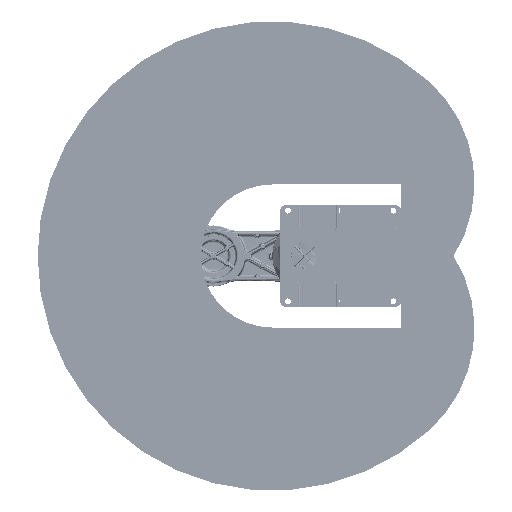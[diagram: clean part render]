
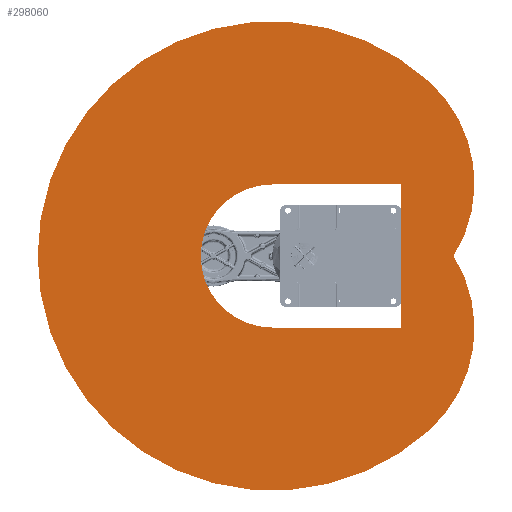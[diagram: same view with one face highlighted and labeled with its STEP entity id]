
A CAD part, front view. The second image highlights one B-rep face of the part: STEP entity #298060.
In plain terms, the highlighted planar face has unit normal (0, -1, 0) as drawn and (0, 0, 1) by its records, which use the part's own axes.
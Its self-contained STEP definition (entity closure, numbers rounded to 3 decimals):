
#8890 = DIRECTION ( 'NONE',  ( 1., 0., 0. ) ) ;
#14755 = CARTESIAN_POINT ( 'NONE',  ( 0., 182.881, 400. ) ) ;
#23980 = CARTESIAN_POINT ( 'NONE',  ( 0., 182.881, 400. ) ) ;
#33756 = DIRECTION ( 'NONE',  ( -1., 0., 0. ) ) ;
#38962 = LINE ( 'NONE', #425142, #393204 ) ;
#45575 = DIRECTION ( 'NONE',  ( 1., 0., 0. ) ) ;
#50015 = VERTEX_POINT ( 'NONE', #14755 ) ;
#74775 = CARTESIAN_POINT ( 'NONE',  ( 0., 0., 400. ) ) ;
#87951 = FACE_OUTER_BOUND ( 'NONE', #407769, .T. ) ;
#92943 = AXIS2_PLACEMENT_3D ( 'NONE', #572017, #147999, #643194 ) ;
#94697 = CARTESIAN_POINT ( 'NONE',  ( 401.478, 445.887, 400. ) ) ;
#95638 = AXIS2_PLACEMENT_3D ( 'NONE', #739273, #457700, #33756 ) ;
#102217 = DIRECTION ( 'NONE',  ( 0., 0., 1. ) ) ;
#119624 = CIRCLE ( 'NONE', #125585, 182.881 ) ;
#124095 = EDGE_CURVE ( 'NONE', #318942, #887282, #119624, .T. ) ;
#125585 = AXIS2_PLACEMENT_3D ( 'NONE', #526218, #102217, #597425 ) ;
#129815 = AXIS2_PLACEMENT_3D ( 'NONE', #270207, #765405, #341419 ) ;
#145891 = DIRECTION ( 'NONE',  ( 1., 0., 0. ) ) ;
#146475 = DIRECTION ( 'NONE',  ( -1., 0., 0. ) ) ;
#147999 = DIRECTION ( 'NONE',  ( 0., 0., -1. ) ) ;
#173259 = EDGE_CURVE ( 'NONE', #305454, #338286, #316576, .T. ) ;
#175822 = VERTEX_POINT ( 'NONE', #451287 ) ;
#193841 = CARTESIAN_POINT ( 'NONE',  ( 463.903, 0., 400. ) ) ;
#214629 = VERTEX_POINT ( 'NONE', #403264 ) ;
#270207 = CARTESIAN_POINT ( 'NONE',  ( 167.283, -185.786, 400. ) ) ;
#290248 = ORIENTED_EDGE ( 'NONE', *, *, #765927, .T. ) ;
#294215 = ORIENTED_EDGE ( 'NONE', *, *, #551951, .T. ) ;
#298060 = ADVANCED_FACE ( 'NONE', ( #87951, #841041 ), #881703, .F. ) ;
#304058 = ORIENTED_EDGE ( 'NONE', *, *, #173259, .F. ) ;
#305454 = VERTEX_POINT ( 'NONE', #94697 ) ;
#316576 = CIRCLE ( 'NONE', #92943, 350. ) ;
#318942 = VERTEX_POINT ( 'NONE', #348799 ) ;
#338286 = VERTEX_POINT ( 'NONE', #193841 ) ;
#341419 = DIRECTION ( 'NONE',  ( 1., 0., 0. ) ) ;
#348799 = CARTESIAN_POINT ( 'NONE',  ( -182.881, 0., 400. ) ) ;
#355270 = CARTESIAN_POINT ( 'NONE',  ( -600., 0., 400. ) ) ;
#373277 = AXIS2_PLACEMENT_3D ( 'NONE', #74775, #569941, #145891 ) ;
#393204 = VECTOR ( 'NONE', #146475, 1000. ) ;
#399683 = LINE ( 'NONE', #23980, #776364 ) ;
#403264 = CARTESIAN_POINT ( 'NONE',  ( 330., -182.881, 400. ) ) ;
#403985 = ORIENTED_EDGE ( 'NONE', *, *, #124095, .F. ) ;
#407769 = EDGE_LOOP ( 'NONE', ( #304058, #454794, #429773, #294215 ) ) ;
#407974 = DIRECTION ( 'NONE',  ( 0., -1., 0. ) ) ;
#414908 = VERTEX_POINT ( 'NONE', #719557 ) ;
#425142 = CARTESIAN_POINT ( 'NONE',  ( 330., -182.881, 400. ) ) ;
#429773 = ORIENTED_EDGE ( 'NONE', *, *, #439694, .T. ) ;
#432738 = DIRECTION ( 'NONE',  ( 0., 0., 1. ) ) ;
#439694 = EDGE_CURVE ( 'NONE', #785388, #414908, #581236, .T. ) ;
#447883 = DIRECTION ( 'NONE',  ( 1., 0., 0. ) ) ;
#449720 = EDGE_CURVE ( 'NONE', #50015, #318942, #575186, .T. ) ;
#451287 = CARTESIAN_POINT ( 'NONE',  ( 330., 182.881, 400. ) ) ;
#454794 = ORIENTED_EDGE ( 'NONE', *, *, #913389, .T. ) ;
#457700 = DIRECTION ( 'NONE',  ( 0., 0., -1. ) ) ;
#469610 = DIRECTION ( 'NONE',  ( 0., 0., 1. ) ) ;
#482575 = AXIS2_PLACEMENT_3D ( 'NONE', #893647, #469610, #45575 ) ;
#521279 = ORIENTED_EDGE ( 'NONE', *, *, #882050, .T. ) ;
#526218 = CARTESIAN_POINT ( 'NONE',  ( 0., 0., 400. ) ) ;
#551951 = EDGE_CURVE ( 'NONE', #414908, #338286, #613245, .T. ) ;
#569941 = DIRECTION ( 'NONE',  ( 0., 0., 1. ) ) ;
#572017 = CARTESIAN_POINT ( 'NONE',  ( 167.283, 185.786, 400. ) ) ;
#575186 = CIRCLE ( 'NONE', #482575, 182.881 ) ;
#581236 = CIRCLE ( 'NONE', #661643, 600. ) ;
#581535 = EDGE_LOOP ( 'NONE', ( #668846, #290248, #911492, #521279, #403985 ) ) ;
#597425 = DIRECTION ( 'NONE',  ( 1., 0., 0. ) ) ;
#613245 = CIRCLE ( 'NONE', #129815, 350. ) ;
#627513 = CIRCLE ( 'NONE', #373277, 600. ) ;
#643194 = DIRECTION ( 'NONE',  ( -1., 0., 0. ) ) ;
#654742 = LINE ( 'NONE', #760785, #820895 ) ;
#661643 = AXIS2_PLACEMENT_3D ( 'NONE', #856718, #432738, #8890 ) ;
#668846 = ORIENTED_EDGE ( 'NONE', *, *, #449720, .F. ) ;
#719557 = CARTESIAN_POINT ( 'NONE',  ( 401.478, -445.887, 400. ) ) ;
#739273 = CARTESIAN_POINT ( 'NONE',  ( 167.283, 0., 400. ) ) ;
#742480 = CARTESIAN_POINT ( 'NONE',  ( 0., -182.881, 400. ) ) ;
#760785 = CARTESIAN_POINT ( 'NONE',  ( 330., 182.881, 400. ) ) ;
#765405 = DIRECTION ( 'NONE',  ( 0., 0., 1. ) ) ;
#765927 = EDGE_CURVE ( 'NONE', #50015, #175822, #399683, .T. ) ;
#776364 = VECTOR ( 'NONE', #447883, 1000. ) ;
#785388 = VERTEX_POINT ( 'NONE', #355270 ) ;
#820895 = VECTOR ( 'NONE', #407974, 1000. ) ;
#823294 = EDGE_CURVE ( 'NONE', #175822, #214629, #654742, .T. ) ;
#841041 = FACE_BOUND ( 'NONE', #581535, .T. ) ;
#856718 = CARTESIAN_POINT ( 'NONE',  ( 0., 0., 400. ) ) ;
#881703 = PLANE ( 'NONE',  #95638 ) ;
#882050 = EDGE_CURVE ( 'NONE', #214629, #887282, #38962, .T. ) ;
#887282 = VERTEX_POINT ( 'NONE', #742480 ) ;
#893647 = CARTESIAN_POINT ( 'NONE',  ( 0., 0., 400. ) ) ;
#911492 = ORIENTED_EDGE ( 'NONE', *, *, #823294, .T. ) ;
#913389 = EDGE_CURVE ( 'NONE', #305454, #785388, #627513, .T. ) ;
